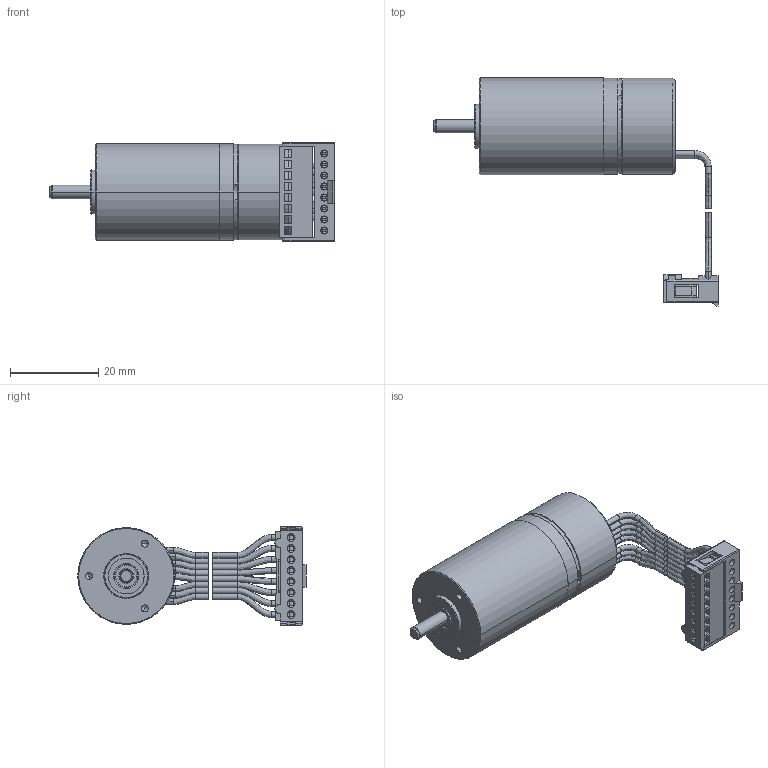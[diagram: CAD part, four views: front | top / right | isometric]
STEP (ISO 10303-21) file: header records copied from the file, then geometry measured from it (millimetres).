
FILE_DESCRIPTION((''),'2;1');
FILE_NAME('386657_EC22_40W_A','2016-10-17T',('mmagpetk'),(''),'CREO PARAMETRIC BY PTC INC, 2016050','CREO PARAMETRIC BY PTC INC, 2016050','');
FILE_SCHEMA(('CONFIG_CONTROL_DESIGN'));
Length unit declared in the file: millimetre
Products named in the file (1): 386657_EC22_40W_A
Bounding box: 64.55 x 51.89 x 22.6 mm (x, y, z)
Volume: 18308.7 mm3; surface area: 7808.3 mm2
Topology: 4 solids, 7 shells, 668 faces, 1812 edges, 1158 vertices
Faces by surface type: plane 330, cylinder 242, bspline 48, cone 30, torus 18
Entity records: 32773 total; most frequent: CARTESIAN_POINT 7025, ORIENTED_EDGE 3612, DIRECTION 3455, PRESENTATION_STYLE_ASSIGNMENT 2259, STYLED_ITEM 1810, CURVE_STYLE 1806, EDGE_CURVE 1806, AXIS2_PLACEMENT_3D 1219
